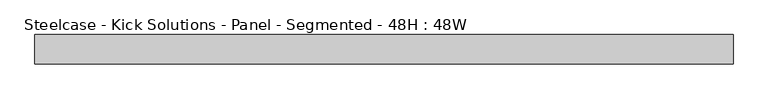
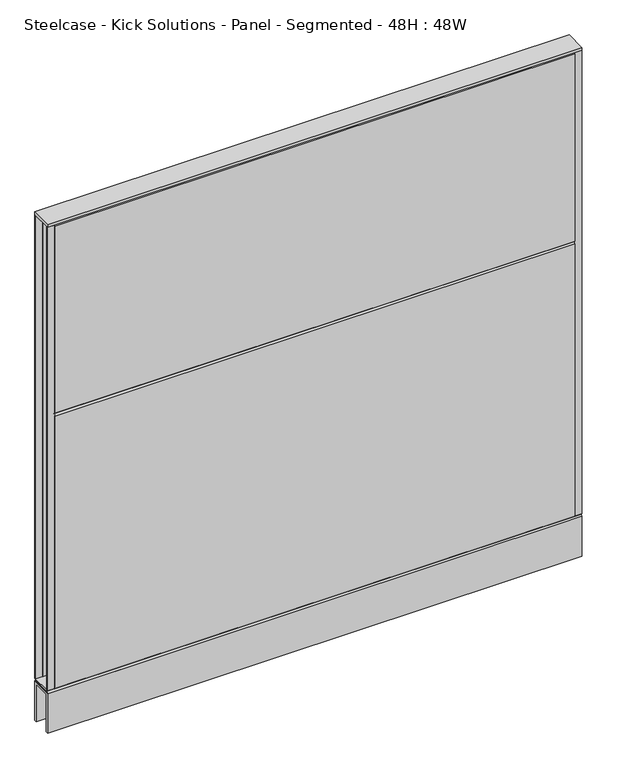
"""IFC4 building model written with IfcOpenShell, lengths in millimetres: furniture geometry, Steelcase - Kick Solutions - Panel - Segmented - 48H : 48W."""

from ifc_helpers import new_model, si_unit, frame, origin, place, context, project, spatial, polyline, outline, extrude, source, transform, mapped, element, save


def steelcase_kick_solutions_panel_segmented_48h_48w_f063b56b(model_context):
    return source(origin(), model_context, "Body", "SweptSolid", [
        extrude(outline(polyline([(1.5e-06, 101.600003), (-3.175, 101.600003), (-3.175, 1219.2), (1.5e-06, 1216.1188448), (1.5e-06, 101.600003)])), frame((15.8749996, 0.0, 0.0), z_axis=(1.0, 0.0, 0.0), x_axis=(0.0, 1.0, 0.0)), (0.0, 0.0, 1.0), 1187.4500008),
        extrude(outline(polyline([(-50.8000015, 765.0811552), (-50.8000015, 1216.1188448), (-47.625, 1219.2), (-47.625, 762.0), (-50.8000015, 765.0811552)])), frame((15.8749996, 0.0, 0.0), z_axis=(1.0, 0.0, 0.0), x_axis=(0.0, 1.0, 0.0)), (0.0, 0.0, 1.0), 1187.4500008),
        extrude(outline(polyline([(-50.8000015, 101.600003), (-50.8000015, 758.9188448), (-47.625, 762.0), (-47.625, 101.600003), (-50.8000015, 101.600003)])), frame((15.8749996, 0.0, 0.0), z_axis=(1.0, 0.0, 0.0), x_axis=(0.0, 1.0, 0.0)), (0.0, 0.0, 1.0), 1187.4500008),
        extrude(outline(polyline([(1219.2, -3.1750015), (1203.3250004, -3.1750015), (1203.3250004, 0.0), (1219.2, 0.0), (1219.2, -3.1750015)])), frame((0.0, 0.0, 101.7169049), z_axis=(0.0, 0.0, 1.0), x_axis=(1.0, 0.0, 0.0)), (0.0, 0.0, 1.0), 1117.599997),
        extrude(outline(polyline([(15.8749996, -50.8000015), (0.0, -50.8000015), (0.0, -47.625), (15.8749996, -47.625), (15.8749996, -50.8000015)])), frame((0.0, 0.0, 101.7169049), z_axis=(0.0, 0.0, 1.0), x_axis=(1.0, 0.0, 0.0)), (0.0, 0.0, 1.0), 1117.599997),
        extrude(outline(polyline([(-50.7995075, 101.7169049), (-0.000494, 101.7169049), (-3.0583512, 98.5421458), (-47.7416503, 98.5421458), (-50.7995075, 101.7169049)])), frame((0.0, 0.0, 0.0), z_axis=(1.0, 0.0, 0.0), x_axis=(0.0, 1.0, 0.0)), (0.0, 0.0, 1.0), 1219.2),
        extrude(outline(polyline([(1219.2, 0.0), (1219.2, -50.8000015), (0.0, -50.8000015), (0.0, 0.0), (1219.2, 0.0)])), frame((0.0, 0.0, 1219.3169018), z_axis=(0.0, 0.0, 1.0), x_axis=(1.0, 0.0, 0.0)), (0.0, 0.0, 1.0), 6.35),
        extrude(outline(polyline([(15.8749996, -3.1750015), (0.0, -3.1750015), (0.0, 0.0), (15.8749996, 0.0), (15.8749996, -3.1750015)])), frame((0.0, 0.0, 101.7169049), z_axis=(0.0, 0.0, 1.0), x_axis=(1.0, 0.0, 0.0)), (0.0, 0.0, 1.0), 1117.599997),
        extrude(outline(polyline([(1219.2, -50.8000015), (1203.3250004, -50.8000015), (1203.3250004, -47.625), (1219.2, -47.625), (1219.2, -50.8000015)])), frame((0.0, 0.0, 101.7169049), z_axis=(0.0, 0.0, 1.0), x_axis=(1.0, 0.0, 0.0)), (0.0, 0.0, 1.0), 1117.599997),
        extrude(outline(polyline([(-50.8000015, 95.3668927), (-47.6247484, 98.5421458), (-3.1752531, 98.5421458), (0.0, 95.3668927), (-50.8000015, 95.3668927)])), frame((0.0, 0.0, 0.0), z_axis=(1.0, 0.0, 0.0), x_axis=(0.0, 1.0, 0.0)), (0.0, 0.0, 1.0), 1219.2),
        extrude(outline(polyline([(0.0, 0.0), (-5.08, 0.0), (-5.08, 90.2869018), (-45.7200015, 90.2869018), (-45.7200015, 0.0), (-50.8000015, 0.0), (-50.8000015, 95.3669018), (0.0, 95.3669018), (0.0, 0.0)])), frame((0.0, 0.0, 0.0), z_axis=(1.0, 0.0, 0.0), x_axis=(0.0, 1.0, 0.0)), (0.0, 0.0, 1.0), 1219.2),
    ])


if __name__ == "__main__":
    model = new_model("IFC4")
    model_context = context("Model", 3, world=origin())
    ifc_project = project(units=[si_unit("LENGTHUNIT", "METRE", prefix="MILLI")], contexts=[model_context])
    site = spatial("IfcSite", under=ifc_project)
    building = spatial("IfcBuilding", under=site)
    placement = place(None, origin())
    steelcase_kick_solutions_panel_segmented_48h_48w_shape = steelcase_kick_solutions_panel_segmented_48h_48w_f063b56b(model_context)
    element("IfcFurniture", 1, ObjectType="Steelcase - Kick Solutions - Panel - Segmented - 48H : 48W", at=placement, inside=building, context=model_context, shape_type="MappedRepresentation", body=[
        mapped(steelcase_kick_solutions_panel_segmented_48h_48w_shape, transform((0.0, 0.0, 0.0), x_axis=(1.0, 0.0, 0.0), y_axis=(0.0, 1.0, 0.0), z_axis=(0.0, 0.0, 1.0))),
    ])
    save(model, "model.ifc")
